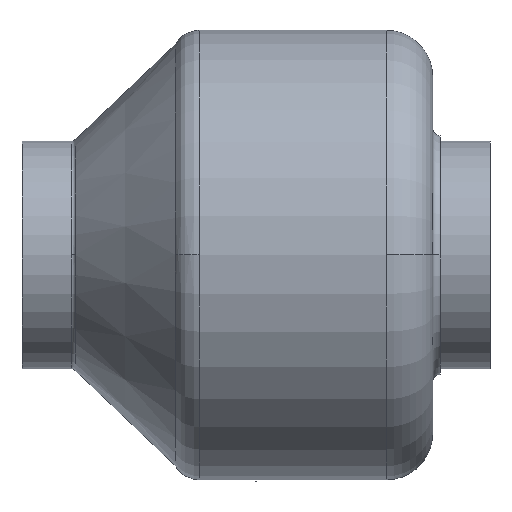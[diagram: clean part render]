
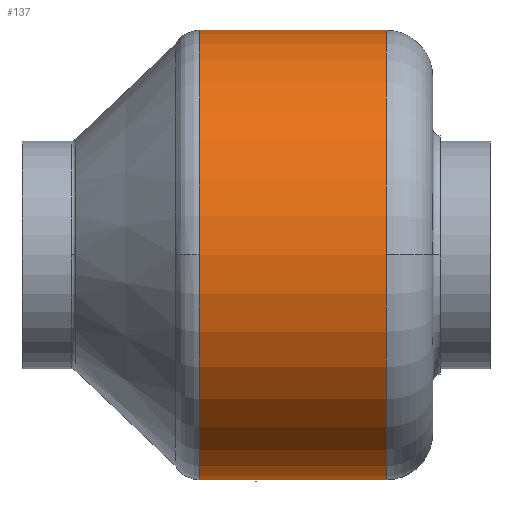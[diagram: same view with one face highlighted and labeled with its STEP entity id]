
A CAD part, top view. The second image highlights one B-rep face of the part: STEP entity #137.
In plain terms, the highlighted cylindrical face has radius 121.5 mm (diameter 243 mm), a partial arc.
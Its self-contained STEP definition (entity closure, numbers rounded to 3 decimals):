
#137=ADVANCED_FACE('',(#371),#372,.T.);
#371=FACE_OUTER_BOUND('',#737,.T.);
#372=CYLINDRICAL_SURFACE('',#738,121.5);
#737=EDGE_LOOP('',(#1113,#1114,#1115,#1116,#1117,#1118,#1119,#1120));
#738=AXIS2_PLACEMENT_3D('',#1121,#1122,#1123);
#1113=ORIENTED_EDGE('',*,*,#2128,.F.);
#1114=ORIENTED_EDGE('',*,*,#2129,.T.);
#1115=ORIENTED_EDGE('',*,*,#2130,.T.);
#1116=ORIENTED_EDGE('',*,*,#2131,.F.);
#1117=ORIENTED_EDGE('',*,*,#2132,.T.);
#1118=ORIENTED_EDGE('',*,*,#2133,.F.);
#1119=ORIENTED_EDGE('',*,*,#2134,.F.);
#1120=ORIENTED_EDGE('',*,*,#2124,.F.);
#1121=CARTESIAN_POINT('',(19.9,0.0,0.0));
#1122=DIRECTION('',(-1.0,0.0,0.0));
#1123=DIRECTION('',(0.0,1.0,0.0));
#2124=EDGE_CURVE('',#2538,#2540,#2541,.T.);
#2128=EDGE_CURVE('',#2546,#2538,#2547,.T.);
#2129=EDGE_CURVE('',#2546,#2548,#2549,.T.);
#2130=EDGE_CURVE('',#2548,#2550,#2551,.T.);
#2131=EDGE_CURVE('',#2552,#2550,#2553,.T.);
#2132=EDGE_CURVE('',#2552,#2554,#2555,.T.);
#2133=EDGE_CURVE('',#2556,#2554,#2557,.T.);
#2134=EDGE_CURVE('',#2540,#2556,#2558,.T.);
#2538=VERTEX_POINT('',#3144);
#2540=VERTEX_POINT('',#3146);
#2541=CIRCLE('',#3147,121.5);
#2546=VERTEX_POINT('',#3152);
#2547=LINE('',#3153,#3154);
#2548=VERTEX_POINT('',#3155);
#2549=CIRCLE('',#3156,121.5);
#2550=VERTEX_POINT('',#3157);
#2551=CIRCLE('',#3158,121.5);
#2552=VERTEX_POINT('',#3159);
#2553=LINE('',#3160,#3161);
#2554=VERTEX_POINT('',#3162);
#2555=B_SPLINE_CURVE_WITH_KNOTS('',3,(#3163,#3164,#3165,#3166,#3167,#3168,#3169,#3170,#3171,#3172,#3173,#3174,#3175,#3176,#3177,#3178,#3179,#3180,#3181,#3182,#3183,#3184,#3185,#3186,#3187,#3188,#3189,#3190,#3191,#3192,#3193,#3194,#3195,#3196),.UNSPECIFIED.,.F.,.F.,(4,2,2,2,2,2,2,2,2,2,2,2,2,2,2,2,4),(0.001,0.002,0.002,0.002,0.003,0.003,0.003,0.003,0.003,0.003,0.003,0.003,0.003,0.004,0.004,0.004,0.004),.UNSPECIFIED.);
#2556=VERTEX_POINT('',#3197);
#2557=LINE('',#3198,#3199);
#2558=CIRCLE('',#3200,121.5);
#3144=CARTESIAN_POINT('',(70.5,121.5,0.0));
#3146=CARTESIAN_POINT('',(70.5,0.,121.5));
#3147=AXIS2_PLACEMENT_3D('',#4130,#4131,#4132);
#3152=CARTESIAN_POINT('',(-30.7,121.5,0.0));
#3153=CARTESIAN_POINT('',(19.9,121.5,0.));
#3154=VECTOR('',#4139,1.0);
#3155=CARTESIAN_POINT('',(-30.7,0.,121.5));
#3156=AXIS2_PLACEMENT_3D('',#4140,#4141,#4142);
#3157=CARTESIAN_POINT('',(-30.7,-121.5,0.));
#3158=AXIS2_PLACEMENT_3D('',#4143,#4144,#4145);
#3159=CARTESIAN_POINT('',(-0.001,-121.5,0.));
#3160=CARTESIAN_POINT('',(19.9,-121.5,0.));
#3161=VECTOR('',#4146,1.0);
#3162=CARTESIAN_POINT('',(0.001,-121.5,0.));
#3163=CARTESIAN_POINT('',(-0.001,-121.5,0.));
#3164=CARTESIAN_POINT('',(-0.001,-121.5,0.));
#3165=CARTESIAN_POINT('',(-0.001,-121.5,0.));
#3166=CARTESIAN_POINT('',(-0.001,-121.5,0.));
#3167=CARTESIAN_POINT('',(-0.001,-121.5,0.001));
#3168=CARTESIAN_POINT('',(-0.001,-121.5,0.001));
#3169=CARTESIAN_POINT('',(-0.001,-121.5,0.001));
#3170=CARTESIAN_POINT('',(-0.001,-121.5,0.001));
#3171=CARTESIAN_POINT('',(0.,-121.5,0.001));
#3172=CARTESIAN_POINT('',(0.,-121.5,0.001));
#3173=CARTESIAN_POINT('',(0.,-121.5,0.001));
#3174=CARTESIAN_POINT('',(0.,-121.5,0.001));
#3175=CARTESIAN_POINT('',(0.,-121.5,0.001));
#3176=CARTESIAN_POINT('',(0.,-121.5,0.001));
#3177=CARTESIAN_POINT('',(0.,-121.5,0.001));
#3178=CARTESIAN_POINT('',(0.,-121.5,0.001));
#3179=CARTESIAN_POINT('',(0.,-121.5,0.001));
#3180=CARTESIAN_POINT('',(0.,-121.5,0.001));
#3181=CARTESIAN_POINT('',(0.,-121.5,0.001));
#3182=CARTESIAN_POINT('',(0.,-121.5,0.001));
#3183=CARTESIAN_POINT('',(0.,-121.5,0.001));
#3184=CARTESIAN_POINT('',(0.,-121.5,0.001));
#3185=CARTESIAN_POINT('',(0.,-121.5,0.001));
#3186=CARTESIAN_POINT('',(0.,-121.5,0.001));
#3187=CARTESIAN_POINT('',(0.,-121.5,0.001));
#3188=CARTESIAN_POINT('',(0.,-121.5,0.001));
#3189=CARTESIAN_POINT('',(0.001,-121.5,0.001));
#3190=CARTESIAN_POINT('',(0.001,-121.5,0.001));
#3191=CARTESIAN_POINT('',(0.001,-121.5,0.001));
#3192=CARTESIAN_POINT('',(0.001,-121.5,0.001));
#3193=CARTESIAN_POINT('',(0.001,-121.5,0.));
#3194=CARTESIAN_POINT('',(0.001,-121.5,0.));
#3195=CARTESIAN_POINT('',(0.001,-121.5,0.));
#3196=CARTESIAN_POINT('',(0.001,-121.5,0.));
#3197=CARTESIAN_POINT('',(70.5,-121.5,0.));
#3198=CARTESIAN_POINT('',(19.9,-121.5,0.));
#3199=VECTOR('',#4147,1.0);
#3200=AXIS2_PLACEMENT_3D('',#4148,#4149,#4150);
#4130=CARTESIAN_POINT('',(70.5,0.0,0.0));
#4131=DIRECTION('',(1.0,0.0,0.0));
#4132=DIRECTION('',(0.0,1.0,0.0));
#4139=DIRECTION('',(1.0,0.0,0.0));
#4140=CARTESIAN_POINT('',(-30.7,0.0,0.0));
#4141=DIRECTION('',(1.0,0.0,0.0));
#4142=DIRECTION('',(0.0,1.0,0.0));
#4143=CARTESIAN_POINT('',(-30.7,0.0,0.0));
#4144=DIRECTION('',(1.0,0.0,0.0));
#4145=DIRECTION('',(0.0,1.0,0.0));
#4146=DIRECTION('',(-1.0,-0.0,-0.0));
#4147=DIRECTION('',(-1.0,-0.0,-0.0));
#4148=CARTESIAN_POINT('',(70.5,0.0,0.0));
#4149=DIRECTION('',(1.0,0.0,0.0));
#4150=DIRECTION('',(0.0,1.0,0.0));
